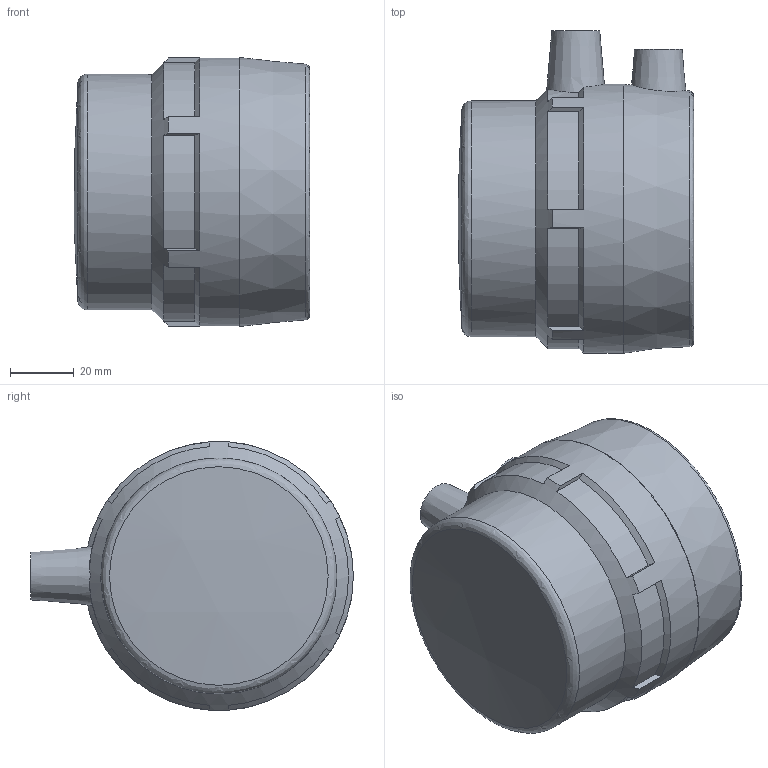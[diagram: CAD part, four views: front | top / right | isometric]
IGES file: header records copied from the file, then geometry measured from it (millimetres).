
Global section: file name: 498304057.ipt; native system: Autodesk Inventor 2015; preprocessor: unknown; author: KIM; date: 20171106.094445; units: millimetre
Bounding box: 73.86 x 101.18 x 84.36 mm (x, y, z)
Volume: 208221.2 mm3; surface area: 42228.1 mm2
Topology: 1 solids, 1 shells, 59 faces, 162 edges, 111 vertices
Faces by surface type: plane 21, revolution 15, cylinder 11, cone 11, sphere 1
Full cylindrical faces by diameter (mm): 4 x2, 74 x1, 84.36 x1
